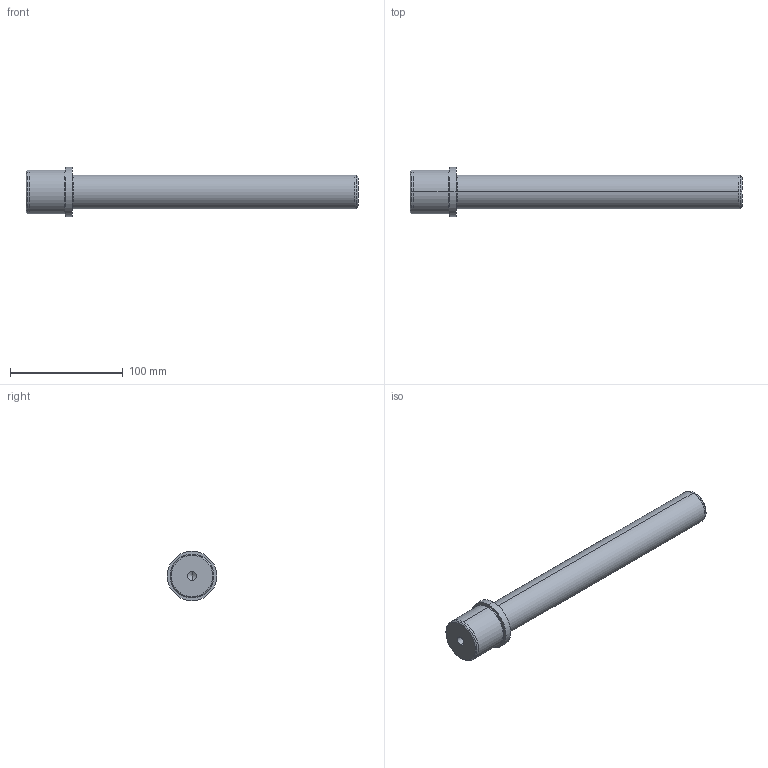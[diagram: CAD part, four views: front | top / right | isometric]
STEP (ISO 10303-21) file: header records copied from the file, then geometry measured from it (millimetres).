
FILE_DESCRIPTION( ( 'STEP AP203' ), '1' );
FILE_NAME( 'D:/Delta 3 D/D05/D05 - 30x260x35.step', '2002-12-31T22:44:41', ( ' ' ), ( ' ' ), 'XStep 1.0', ' ', ' ' );
FILE_SCHEMA( ( 'CONFIG_CONTROL_DESIGN' ) );
Length unit declared in the file: metre
Products named in the file (1): 1
Bounding box: 295 x 44 x 44 mm (x, y, z)
Volume: 229903.8 mm3; surface area: 32277.4 mm2
Topology: 1 solids, 1 shells, 29 faces, 58 edges, 35 vertices
Faces by surface type: revolution 20, bspline 9
Entity records: 855 total; most frequent: CARTESIAN_POINT 218, ORIENTED_EDGE 112, DIRECTION 110, EDGE_CURVE 56, AXIS2_PLACEMENT_3D 35, EDGE_LOOP 35, VERTEX_POINT 35, CIRCLE 34
